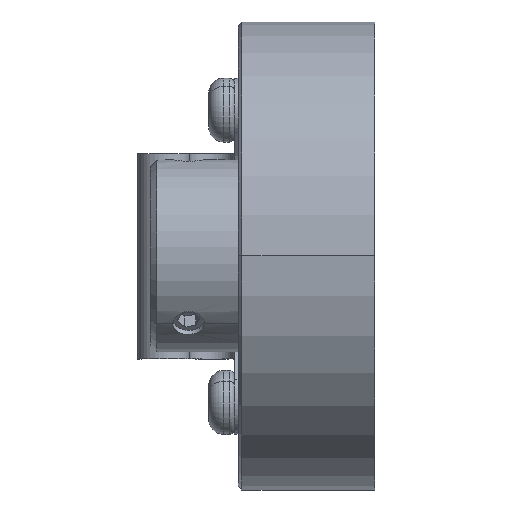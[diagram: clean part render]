
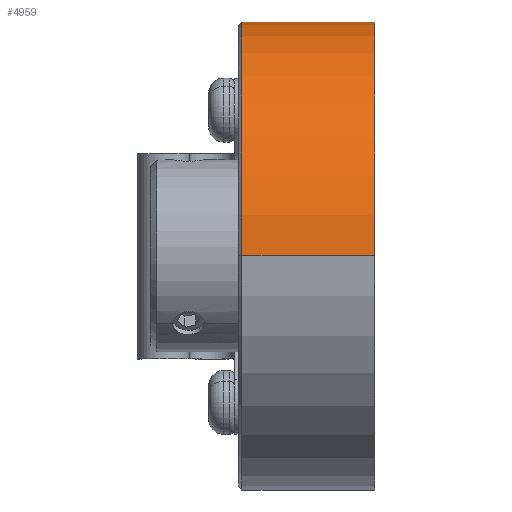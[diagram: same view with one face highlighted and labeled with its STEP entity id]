
A CAD part, top view. The second image highlights one B-rep face of the part: STEP entity #4959.
In plain terms, the highlighted cylindrical face has radius 18.25 mm (diameter 36.5 mm), a partial arc.
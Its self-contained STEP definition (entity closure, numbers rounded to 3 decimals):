
#884 = DIRECTION ( 'NONE',  ( 0., 0., 1. ) ) ;
#1757 = DIRECTION ( 'NONE',  ( -1., 0., 0. ) ) ;
#1899 = CARTESIAN_POINT ( 'NONE',  ( -1.3, 0., 0. ) ) ;
#2029 = AXIS2_PLACEMENT_3D ( 'NONE', #1899, #11357, #884 ) ;
#2553 = DIRECTION ( 'NONE',  ( 1., 0., 0. ) ) ;
#2576 = CARTESIAN_POINT ( 'NONE',  ( -1.3, 0., 18.25 ) ) ;
#2617 = VERTEX_POINT ( 'NONE', #10057 ) ;
#2731 = CARTESIAN_POINT ( 'NONE',  ( -11.65, 0., 0. ) ) ;
#3183 = LINE ( 'NONE', #13654, #12912 ) ;
#3421 = EDGE_CURVE ( 'NONE', #4150, #2617, #3183, .T. ) ;
#3691 = LINE ( 'NONE', #6602, #10606 ) ;
#4150 = VERTEX_POINT ( 'NONE', #6821 ) ;
#4959 = ADVANCED_FACE ( 'NONE', ( #10226 ), #6410, .T. ) ;
#5286 = AXIS2_PLACEMENT_3D ( 'NONE', #6033, #1757, #10077 ) ;
#5507 = ORIENTED_EDGE ( 'NONE', *, *, #12074, .F. ) ;
#5529 = VERTEX_POINT ( 'NONE', #11036 ) ;
#5801 = ORIENTED_EDGE ( 'NONE', *, *, #12739, .T. ) ;
#6033 = CARTESIAN_POINT ( 'NONE',  ( -1000., 0., 0. ) ) ;
#6109 = ORIENTED_EDGE ( 'NONE', *, *, #12896, .T. ) ;
#6153 = EDGE_LOOP ( 'NONE', ( #5801, #11365, #6109, #5507 ) ) ;
#6410 = CYLINDRICAL_SURFACE ( 'NONE', #5286, 18.25 ) ;
#6602 = CARTESIAN_POINT ( 'NONE',  ( -1000., 0., 18.25 ) ) ;
#6821 = CARTESIAN_POINT ( 'NONE',  ( -1.3, 0., -18.25 ) ) ;
#7310 = DIRECTION ( 'NONE',  ( -1., 0., 0. ) ) ;
#7373 = AXIS2_PLACEMENT_3D ( 'NONE', #2731, #2553, #13226 ) ;
#7663 = DIRECTION ( 'NONE',  ( -1., 0., 0. ) ) ;
#7765 = CIRCLE ( 'NONE', #7373, 18.25 ) ;
#8112 = CIRCLE ( 'NONE', #2029, 18.25 ) ;
#10057 = CARTESIAN_POINT ( 'NONE',  ( -11.65, 0., -18.25 ) ) ;
#10077 = DIRECTION ( 'NONE',  ( 0., 0., 1. ) ) ;
#10226 = FACE_OUTER_BOUND ( 'NONE', #6153, .T. ) ;
#10606 = VECTOR ( 'NONE', #7663, 1000. ) ;
#11036 = CARTESIAN_POINT ( 'NONE',  ( -11.65, 0., 18.25 ) ) ;
#11357 = DIRECTION ( 'NONE',  ( -1., 0., 0. ) ) ;
#11365 = ORIENTED_EDGE ( 'NONE', *, *, #3421, .T. ) ;
#12074 = EDGE_CURVE ( 'NONE', #13640, #5529, #3691, .T. ) ;
#12739 = EDGE_CURVE ( 'NONE', #13640, #4150, #8112, .T. ) ;
#12896 = EDGE_CURVE ( 'NONE', #2617, #5529, #7765, .T. ) ;
#12912 = VECTOR ( 'NONE', #7310, 1000. ) ;
#13226 = DIRECTION ( 'NONE',  ( 0., 0., 1. ) ) ;
#13640 = VERTEX_POINT ( 'NONE', #2576 ) ;
#13654 = CARTESIAN_POINT ( 'NONE',  ( -1000., 0., -18.25 ) ) ;
